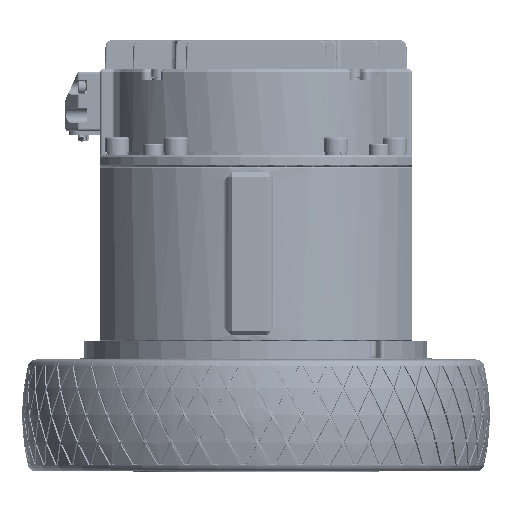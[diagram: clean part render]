
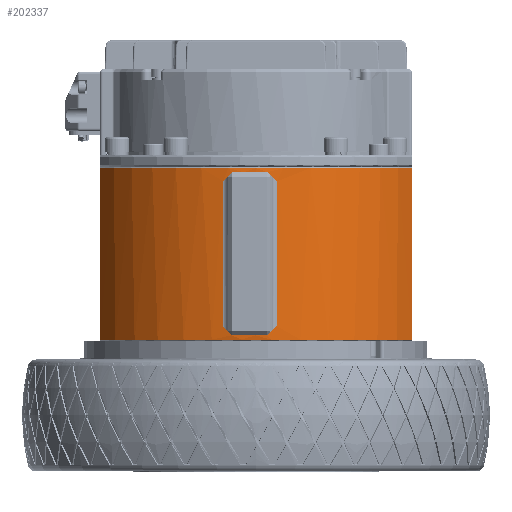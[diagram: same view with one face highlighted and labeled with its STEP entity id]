
A CAD part, left-side view. The second image highlights one B-rep face of the part: STEP entity #202337.
In plain terms, the highlighted cylindrical face has radius 61 mm (diameter 122 mm), a partial arc.
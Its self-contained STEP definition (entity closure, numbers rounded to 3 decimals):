
#2756 = VERTEX_POINT ( 'NONE', #10723 ) ;
#3019 = CARTESIAN_POINT ( 'NONE',  ( -26.382, 55., -156.697 ) ) ;
#5356 = CIRCLE ( 'NONE', #67035, 61. ) ;
#5848 = FACE_OUTER_BOUND ( 'NONE', #13408, .T. ) ;
#7552 = EDGE_CURVE ( 'NONE', #183838, #164993, #143440, .T. ) ;
#7768 = CARTESIAN_POINT ( 'NONE',  ( -60.566, -7.262, -141.935 ) ) ;
#8367 = DIRECTION ( 'NONE',  ( -1., 0., 0. ) ) ;
#8666 = CARTESIAN_POINT ( 'NONE',  ( -60.696, -6.177, -143.02 ) ) ;
#9584 = CARTESIAN_POINT ( 'NONE',  ( -60.797, -5.09, -144.108 ) ) ;
#10723 = CARTESIAN_POINT ( 'NONE',  ( -60.566, -7.262, -90.959 ) ) ;
#10954 = ORIENTED_EDGE ( 'NONE', *, *, #68495, .T. ) ;
#11534 = ORIENTED_EDGE ( 'NONE', *, *, #232021, .T. ) ;
#12300 = VERTEX_POINT ( 'NONE', #187390 ) ;
#13408 = EDGE_LOOP ( 'NONE', ( #256689, #178708, #193419, #154911, #96219 ) ) ;
#14339 = AXIS2_PLACEMENT_3D ( 'NONE', #49431, #196229, #152193 ) ;
#15371 = CIRCLE ( 'NONE', #259558, 61. ) ;
#15420 =( BOUNDED_CURVE ( )  B_SPLINE_CURVE ( 3, ( #53020, #108969, #241137, #236539 ),
 .UNSPECIFIED., .F., .F. ) 
 B_SPLINE_CURVE_WITH_KNOTS ( ( 4, 4 ),
 ( 4.852, 4.904 ),
 .UNSPECIFIED. ) 
 CURVE ( )  GEOMETRIC_REPRESENTATION_ITEM ( )  RATIONAL_B_SPLINE_CURVE ( ( 1., 1., 1., 1. ) ) 
 REPRESENTATION_ITEM ( '' )  );
#24491 = DIRECTION ( 'NONE',  ( -1., 0., 0. ) ) ;
#25005 = ORIENTED_EDGE ( 'NONE', *, *, #106584, .T. ) ;
#32768 = CARTESIAN_POINT ( 'NONE',  ( -59.883, 11.619, -90.816 ) ) ;
#34092 = VERTEX_POINT ( 'NONE', #105474 ) ;
#38007 = EDGE_CURVE ( 'NONE', #44148, #182050, #224432, .T. ) ;
#39123 = AXIS2_PLACEMENT_3D ( 'NONE', #140595, #201230, #55380 ) ;
#42180 = EDGE_LOOP ( 'NONE', ( #11534, #148369, #69014, #25005, #212250, #10954, #46997, #193270 ) ) ;
#42202 = DIRECTION ( 'NONE',  ( 0., 0., 1. ) ) ;
#44148 = VERTEX_POINT ( 'NONE', #67616 ) ;
#46646 = CARTESIAN_POINT ( 'NONE',  ( -59.883, 11.619, -142.078 ) ) ;
#46997 = ORIENTED_EDGE ( 'NONE', *, *, #7552, .T. ) ;
#48854 = VERTEX_POINT ( 'NONE', #46646 ) ;
#49431 = CARTESIAN_POINT ( 'NONE',  ( 0., 0., -86.197 ) ) ;
#53020 = CARTESIAN_POINT ( 'NONE',  ( -60.405, 8.5, -145.197 ) ) ;
#53958 = CIRCLE ( 'NONE', #39123, 61. ) ;
#55380 = DIRECTION ( 'NONE',  ( -1., 0., 0. ) ) ;
#55842 = VERTEX_POINT ( 'NONE', #221579 ) ;
#56551 = VERTEX_POINT ( 'NONE', #111008 ) ;
#60356 = DIRECTION ( 'NONE',  ( 0., 0., 1. ) ) ;
#63116 = EDGE_CURVE ( 'NONE', #56551, #44148, #53958, .T. ) ;
#64065 = CARTESIAN_POINT ( 'NONE',  ( 0., 0., -147.197 ) ) ;
#64994 = DIRECTION ( 'NONE',  ( 1., 0., 0. ) ) ;
#67035 = AXIS2_PLACEMENT_3D ( 'NONE', #257673, #232864, #24491 ) ;
#67183 = CARTESIAN_POINT ( 'NONE',  ( -60.869, -4., -145.197 ) ) ;
#67616 = CARTESIAN_POINT ( 'NONE',  ( -26.382, -55., -146.697 ) ) ;
#68495 = EDGE_CURVE ( 'NONE', #2756, #183838, #160222, .T. ) ;
#69014 = ORIENTED_EDGE ( 'NONE', *, *, #183236, .T. ) ;
#72930 = EDGE_CURVE ( 'NONE', #182050, #227948, #99727, .T. ) ;
#92936 = LINE ( 'NONE', #3019, #178246 ) ;
#96219 = ORIENTED_EDGE ( 'NONE', *, *, #63116, .T. ) ;
#99446 = CARTESIAN_POINT ( 'NONE',  ( -60.566, -7.262, -147.197 ) ) ;
#99727 = CIRCLE ( 'NONE', #213309, 61. ) ;
#100911 = DIRECTION ( 'NONE',  ( 0., 0., -1. ) ) ;
#105474 = CARTESIAN_POINT ( 'NONE',  ( -60.869, -4., -87.697 ) ) ;
#106584 = EDGE_CURVE ( 'NONE', #187227, #34092, #15371, .T. ) ;
#108969 = CARTESIAN_POINT ( 'NONE',  ( -60.258, 9.544, -144.153 ) ) ;
#111008 = CARTESIAN_POINT ( 'NONE',  ( -26.382, 55., -146.697 ) ) ;
#112991 =( BOUNDED_CURVE ( )  B_SPLINE_CURVE ( 3, ( #116609, #136843, #157932, #263606 ),
 .UNSPECIFIED., .F., .F. ) 
 B_SPLINE_CURVE_WITH_KNOTS ( ( 4, 4 ),
 ( 1.636, 1.69 ),
 .UNSPECIFIED. ) 
 CURVE ( )  GEOMETRIC_REPRESENTATION_ITEM ( )  RATIONAL_B_SPLINE_CURVE ( ( 1., 1., 1., 1. ) ) 
 REPRESENTATION_ITEM ( '' )  );
#116609 = CARTESIAN_POINT ( 'NONE',  ( -60.869, -4., -87.697 ) ) ;
#121969 = DIRECTION ( 'NONE',  ( -1., 0., 0. ) ) ;
#128243 = DIRECTION ( 'NONE',  ( 0., 0., 1. ) ) ;
#132295 = CARTESIAN_POINT ( 'NONE',  ( -26.382, -55., -86.197 ) ) ;
#133843 = FACE_BOUND ( 'NONE', #42180, .T. ) ;
#136843 = CARTESIAN_POINT ( 'NONE',  ( -60.797, -5.09, -88.787 ) ) ;
#137079 = EDGE_CURVE ( 'NONE', #48854, #223011, #164385, .T. ) ;
#140595 = CARTESIAN_POINT ( 'NONE',  ( 0., 0., -146.697 ) ) ;
#143440 =( BOUNDED_CURVE ( )  B_SPLINE_CURVE ( 3, ( #7768, #8666, #9584, #155501 ),
 .UNSPECIFIED., .F., .F. ) 
 B_SPLINE_CURVE_WITH_KNOTS ( ( 4, 4 ),
 ( 1.451, 1.505 ),
 .UNSPECIFIED. ) 
 CURVE ( )  GEOMETRIC_REPRESENTATION_ITEM ( )  RATIONAL_B_SPLINE_CURVE ( ( 1., 1., 1., 1. ) ) 
 REPRESENTATION_ITEM ( '' )  );
#146420 = CARTESIAN_POINT ( 'NONE',  ( -60.084, 10.584, -89.781 ) ) ;
#148248 = CARTESIAN_POINT ( 'NONE',  ( -60.405, 8.5, -87.697 ) ) ;
#148369 = ORIENTED_EDGE ( 'NONE', *, *, #137079, .T. ) ;
#149792 = DIRECTION ( 'NONE',  ( 0., 0., 1. ) ) ;
#152193 = DIRECTION ( 'NONE',  ( -1., 0., 0. ) ) ;
#153421 =( BOUNDED_CURVE ( )  B_SPLINE_CURVE ( 3, ( #272278, #146420, #233662, #148248 ),
 .UNSPECIFIED., .F., .F. ) 
 B_SPLINE_CURVE_WITH_KNOTS ( ( 4, 4 ),
 ( 4.521, 4.573 ),
 .UNSPECIFIED. ) 
 CURVE ( )  GEOMETRIC_REPRESENTATION_ITEM ( )  RATIONAL_B_SPLINE_CURVE ( ( 1., 1., 1., 1. ) ) 
 REPRESENTATION_ITEM ( '' )  );
#154911 = ORIENTED_EDGE ( 'NONE', *, *, #160667, .F. ) ;
#155160 = CARTESIAN_POINT ( 'NONE',  ( -60.566, -7.262, -141.935 ) ) ;
#155501 = CARTESIAN_POINT ( 'NONE',  ( -60.869, -4., -145.197 ) ) ;
#157932 = CARTESIAN_POINT ( 'NONE',  ( -60.696, -6.177, -89.875 ) ) ;
#160222 = LINE ( 'NONE', #99446, #189698 ) ;
#160667 = EDGE_CURVE ( 'NONE', #56551, #12300, #92936, .T. ) ;
#164385 = LINE ( 'NONE', #256040, #213737 ) ;
#164993 = VERTEX_POINT ( 'NONE', #67183 ) ;
#176446 = EDGE_CURVE ( 'NONE', #227948, #12300, #202414, .T. ) ;
#178246 = VECTOR ( 'NONE', #149792, 1000. ) ;
#178708 = ORIENTED_EDGE ( 'NONE', *, *, #72930, .T. ) ;
#181726 = VECTOR ( 'NONE', #60356, 1000. ) ;
#182050 = VERTEX_POINT ( 'NONE', #132295 ) ;
#183236 = EDGE_CURVE ( 'NONE', #223011, #187227, #153421, .T. ) ;
#183838 = VERTEX_POINT ( 'NONE', #155160 ) ;
#187227 = VERTEX_POINT ( 'NONE', #251810 ) ;
#187390 = CARTESIAN_POINT ( 'NONE',  ( -26.382, 55., -86.197 ) ) ;
#187422 = EDGE_CURVE ( 'NONE', #34092, #2756, #112991, .T. ) ;
#189698 = VECTOR ( 'NONE', #202277, 1000. ) ;
#193270 = ORIENTED_EDGE ( 'NONE', *, *, #220008, .F. ) ;
#193419 = ORIENTED_EDGE ( 'NONE', *, *, #176446, .T. ) ;
#193839 = DIRECTION ( 'NONE',  ( 0., 0., 1. ) ) ;
#196229 = DIRECTION ( 'NONE',  ( 0., 0., -1. ) ) ;
#201230 = DIRECTION ( 'NONE',  ( 0., 0., 1. ) ) ;
#202277 = DIRECTION ( 'NONE',  ( 0., 0., -1. ) ) ;
#202337 = ADVANCED_FACE ( 'NONE', ( #5848, #133843 ), #271905, .T. ) ;
#202414 = CIRCLE ( 'NONE', #14339, 61. ) ;
#205566 = CARTESIAN_POINT ( 'NONE',  ( 0., 0., -86.197 ) ) ;
#206397 = AXIS2_PLACEMENT_3D ( 'NONE', #64065, #128243, #64994 ) ;
#212250 = ORIENTED_EDGE ( 'NONE', *, *, #187422, .T. ) ;
#213309 = AXIS2_PLACEMENT_3D ( 'NONE', #205566, #100911, #121969 ) ;
#213737 = VECTOR ( 'NONE', #42202, 1000. ) ;
#220008 = EDGE_CURVE ( 'NONE', #55842, #164993, #5356, .T. ) ;
#221579 = CARTESIAN_POINT ( 'NONE',  ( -60.405, 8.5, -145.197 ) ) ;
#223011 = VERTEX_POINT ( 'NONE', #32768 ) ;
#224432 = LINE ( 'NONE', #228220, #181726 ) ;
#227948 = VERTEX_POINT ( 'NONE', #261119 ) ;
#228220 = CARTESIAN_POINT ( 'NONE',  ( -26.382, -55., -156.697 ) ) ;
#232021 = EDGE_CURVE ( 'NONE', #55842, #48854, #15420, .T. ) ;
#232864 = DIRECTION ( 'NONE',  ( 0., 0., 1. ) ) ;
#233662 = CARTESIAN_POINT ( 'NONE',  ( -60.258, 9.544, -88.741 ) ) ;
#236539 = CARTESIAN_POINT ( 'NONE',  ( -59.883, 11.619, -142.078 ) ) ;
#241137 = CARTESIAN_POINT ( 'NONE',  ( -60.084, 10.584, -143.113 ) ) ;
#251810 = CARTESIAN_POINT ( 'NONE',  ( -60.405, 8.5, -87.697 ) ) ;
#256040 = CARTESIAN_POINT ( 'NONE',  ( -59.883, 11.619, -147.197 ) ) ;
#256689 = ORIENTED_EDGE ( 'NONE', *, *, #38007, .T. ) ;
#257673 = CARTESIAN_POINT ( 'NONE',  ( 0., 0., -145.197 ) ) ;
#259558 = AXIS2_PLACEMENT_3D ( 'NONE', #259961, #193839, #8367 ) ;
#259961 = CARTESIAN_POINT ( 'NONE',  ( 0., 0., -87.697 ) ) ;
#261119 = CARTESIAN_POINT ( 'NONE',  ( -61., 0., -86.197 ) ) ;
#263606 = CARTESIAN_POINT ( 'NONE',  ( -60.566, -7.262, -90.959 ) ) ;
#271905 = CYLINDRICAL_SURFACE ( 'NONE', #206397, 61. ) ;
#272278 = CARTESIAN_POINT ( 'NONE',  ( -59.883, 11.619, -90.816 ) ) ;
